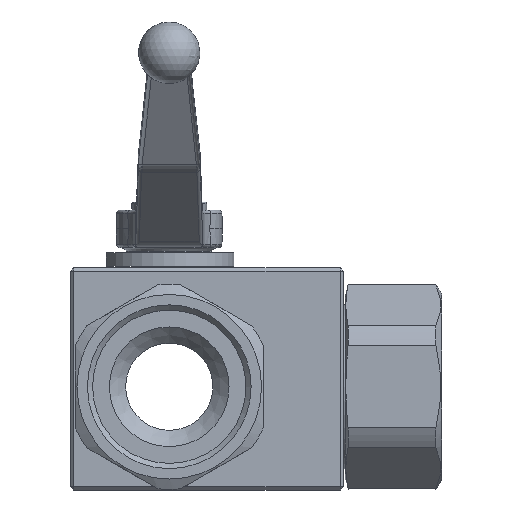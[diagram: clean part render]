
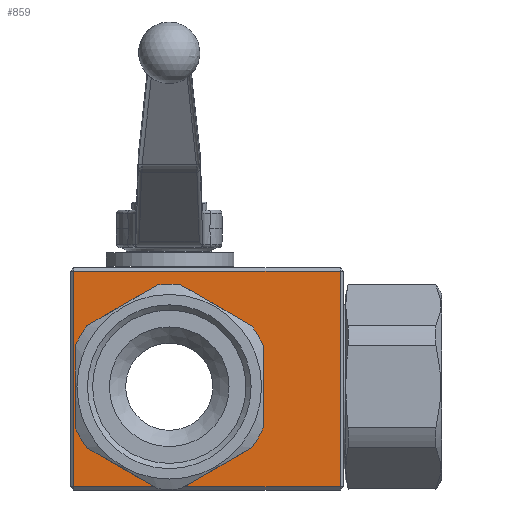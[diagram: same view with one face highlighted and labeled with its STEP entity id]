
A CAD part, front view. The second image highlights one B-rep face of the part: STEP entity #859.
In plain terms, the highlighted planar face has unit normal (0, -1, 0).
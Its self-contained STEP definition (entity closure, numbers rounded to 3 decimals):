
#859 = ADVANCED_FACE( '', ( #1825, #1826 ), #1827, .F. );
#1825 = FACE_OUTER_BOUND( '', #3260, .T. );
#1826 = FACE_BOUND( '', #3261, .T. );
#1827 = PLANE( '', #3262 );
#3260 = EDGE_LOOP( '', ( #5652, #5653, #5654, #5655 ) );
#3261 = EDGE_LOOP( '', ( #5656 ) );
#3262 = AXIS2_PLACEMENT_3D( '', #5657, #5658, #5659 );
#5652 = ORIENTED_EDGE( '', *, *, #7537, .T. );
#5653 = ORIENTED_EDGE( '', *, *, #7722, .T. );
#5654 = ORIENTED_EDGE( '', *, *, #8029, .T. );
#5655 = ORIENTED_EDGE( '', *, *, #8030, .T. );
#5656 = ORIENTED_EDGE( '', *, *, #8031, .F. );
#5657 = CARTESIAN_POINT( '', ( -29., -32.5, 34.8 ) );
#5658 = DIRECTION( '', ( 0., 1., 0. ) );
#5659 = DIRECTION( '', ( 0., 0., 1. ) );
#7537 = EDGE_CURVE( '', #8552, #8746, #8748, .T. );
#7722 = EDGE_CURVE( '', #8746, #9065, #9067, .T. );
#8029 = EDGE_CURVE( '', #9065, #9546, #9547, .T. );
#8030 = EDGE_CURVE( '', #9546, #8552, #9548, .T. );
#8031 = EDGE_CURVE( '', #9549, #9549, #9550, .T. );
#8552 = VERTEX_POINT( '', #10193 );
#8746 = VERTEX_POINT( '', #10661 );
#8748 = LINE( '', #10664, #10665 );
#9065 = VERTEX_POINT( '', #11340 );
#9067 = LINE( '', #11343, #11344 );
#9546 = VERTEX_POINT( '', #12822 );
#9547 = LINE( '', #12823, #12824 );
#9548 = LINE( '', #12825, #12826 );
#9549 = VERTEX_POINT( '', #12827 );
#9550 = CIRCLE( '', #12828, 25.25 );
#10193 = CARTESIAN_POINT( '', ( 50., -32.5, 33.8 ) );
#10661 = CARTESIAN_POINT( '', ( -28., -32.5, 33.8 ) );
#10664 = CARTESIAN_POINT( '', ( -29., -32.5, 33.8 ) );
#10665 = VECTOR( '', #14617, 1000. );
#11340 = CARTESIAN_POINT( '', ( -28., -32.5, -29.2 ) );
#11343 = CARTESIAN_POINT( '', ( -28., -32.5, 34.8 ) );
#11344 = VECTOR( '', #14835, 1000. );
#12822 = CARTESIAN_POINT( '', ( 50., -32.5, -29.2 ) );
#12823 = CARTESIAN_POINT( '', ( 51., -32.5, -29.2 ) );
#12824 = VECTOR( '', #15190, 1000. );
#12825 = CARTESIAN_POINT( '', ( 50., -32.5, 34.8 ) );
#12826 = VECTOR( '', #15191, 1000. );
#12827 = CARTESIAN_POINT( '', ( 25.25, -32.5, 0. ) );
#12828 = AXIS2_PLACEMENT_3D( '', #15192, #15193, #15194 );
#14617 = DIRECTION( '', ( -1., 0., 0. ) );
#14835 = DIRECTION( '', ( 0., 0., -1. ) );
#15190 = DIRECTION( '', ( 1., 0., 0. ) );
#15191 = DIRECTION( '', ( 0., 0., 1. ) );
#15192 = CARTESIAN_POINT( '', ( 0., -32.5, 0. ) );
#15193 = DIRECTION( '', ( 0., -1., 0. ) );
#15194 = DIRECTION( '', ( 1., 0., 0. ) );
